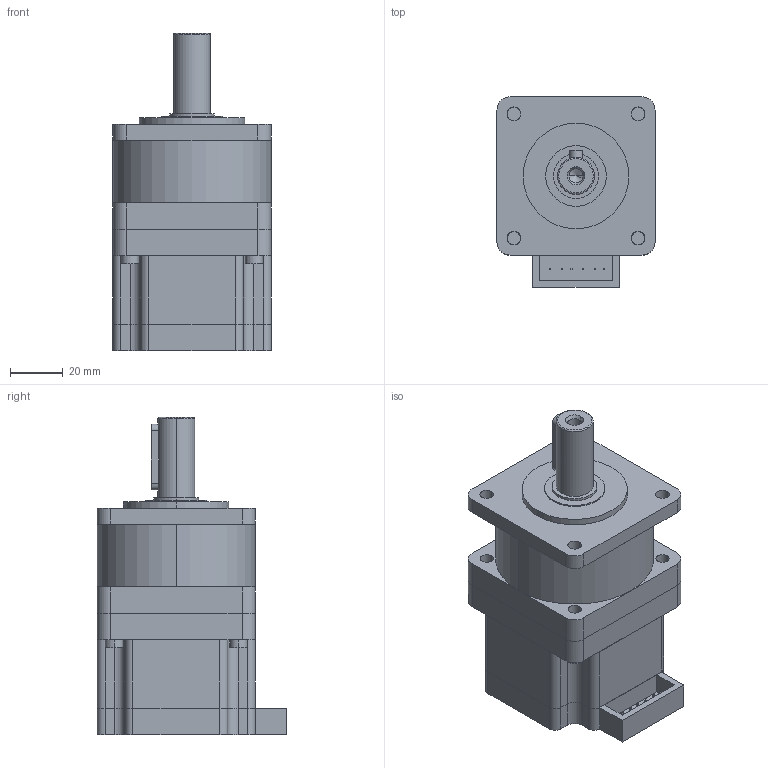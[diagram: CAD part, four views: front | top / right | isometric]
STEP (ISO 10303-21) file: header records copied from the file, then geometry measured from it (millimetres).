
FILE_DESCRIPTION (( 'STEP AP203' ), '1' );
FILE_NAME ('60PG008-D20-0446.STEP', '2019-09-21T07:22:58', ( 'China' ), ( 'Home' ), 'SwSTEP 2.0', 'SolidWorks 2016', '' );
FILE_SCHEMA (( 'CONFIG_CONTROL_DESIGN' ));
Length unit declared in the file: millimetre
Products named in the file (1): 60PG008-D20-0446
Bounding box: 60 x 72 x 120.3 mm (x, y, z)
Volume: 283109.9 mm3; surface area: 58122.2 mm2
Topology: 10 solids, 10 shells, 214 faces, 536 edges, 353 vertices
Faces by surface type: plane 130, cylinder 78, cone 4, torus 2
Entity records: 6551 total; most frequent: CARTESIAN_POINT 1163, DIRECTION 1124, ORIENTED_EDGE 1068, EDGE_CURVE 534, AXIS2_PLACEMENT_3D 378, VECTOR 368, LINE 368, VERTEX_POINT 353
